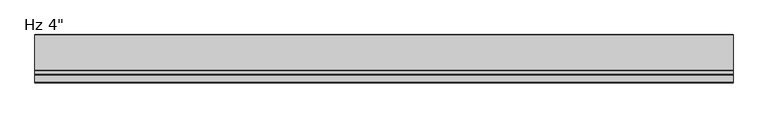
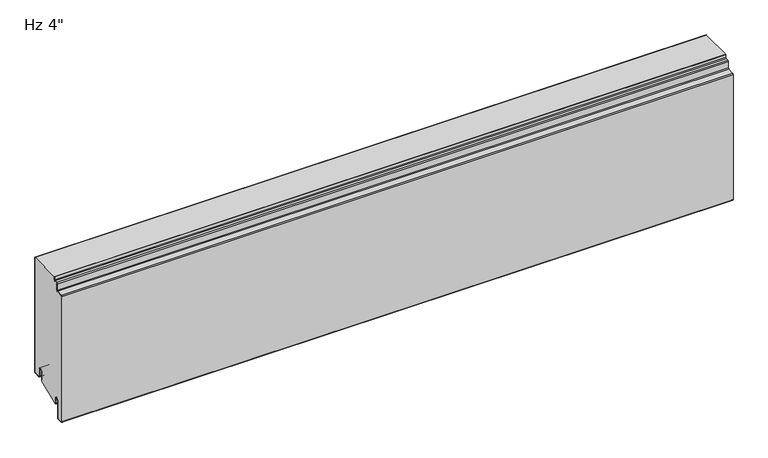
"""IFC4 building model written with IfcOpenShell, lengths in millimetres: plate geometry."""

from ifc_helpers import new_model, si_unit, point, frame, frame_2d, origin, place, context, project, spatial, polyline, circle_curve, trimmed, segment, composite_curve, outline, extrude, source, transform, mapped, element, save


def plate_0d08f7c9(model_context):
    return source(origin(), model_context, "Body", "SweptSolid", [
        extrude(outline(composite_curve([segment(trimmed(circle_curve(frame_2d((-21.43125, 19.05)), 4.96875), [point((-16.4625, 19.05))], [point((-26.4, 19.05))], True, "CARTESIAN"), True, "CONTINUOUS"), segment(polyline([(-26.4, 19.05), (-26.4, -3.1323422), (-74.6157227, -23.01875), (-76.2, -23.01875), (-76.2, -13.5080174), (-76.99375, -13.5080174), (-76.7875, -11.9205174)]), True, "CONTINUOUS"), segment(trimmed(circle_curve(frame_2d((-81.75625, -11.9205174)), 4.96875), [point((-76.7875, -11.9205174))], [point((-86.725, -11.9205174))], True, "CARTESIAN"), True, "CONTINUOUS"), segment(polyline([(-86.725, -11.9205174), (-86.725, -50.1038221)]), True, "CONTINUOUS"), segment(trimmed(circle_curve(frame_2d((-88.10625, -50.1038221)), 1.38125), [point((-86.725, -50.1038221))], [point((-88.033961, -51.4831791))], False, "CARTESIAN"), True, "CONTINUOUS"), segment(polyline([(-88.033961, -51.4831791), (-99.146461, -52.0655606)]), True, "CONTINUOUS"), segment(trimmed(circle_curve(frame_2d((-99.21875, -50.6862035)), 1.38125), [point((-99.146461, -52.0655606))], [point((-100.6, -50.6862035))], False, "CARTESIAN"), True, "CONTINUOUS"), segment(polyline([(-100.6, -50.6862035), (-100.6, 236.6447607)]), True, "CONTINUOUS"), segment(trimmed(circle_curve(frame_2d((-99.21875, 236.6447607)), 1.38125), [point((-100.6, 236.6447607))], [point((-99.291039, 238.0241177))], False, "CARTESIAN"), True, "CONTINUOUS"), segment(polyline([(-99.291039, 238.0241177), (-85.5895807, 238.7421807)]), True, "CONTINUOUS"), segment(trimmed(circle_curve(frame_2d((-85.725, 241.3261347)), 2.5875), [point((-85.5895807, 238.7421807))], [point((-83.1375, 241.3261347))], True, "CARTESIAN"), True, "CONTINUOUS"), segment(polyline([(-83.1375, 241.3261347), (-83.1375, 255.4824411)]), True, "CONTINUOUS"), segment(trimmed(circle_curve(frame_2d((-81.75625, 255.4824411)), 1.38125), [point((-83.1375, 255.4824411))], [point((-81.828539, 256.8617981))], False, "CARTESIAN"), True, "CONTINUOUS"), segment(polyline([(-81.828539, 256.8617981), (-76.0645807, 257.1638744)]), True, "CONTINUOUS"), segment(trimmed(circle_curve(frame_2d((-76.2, 259.7478283)), 2.5875), [point((-76.0645807, 257.1638744))], [point((-73.6125, 259.7478283))], True, "CARTESIAN"), True, "CONTINUOUS"), segment(polyline([(-73.6125, 259.7478283), (-73.6125, 266.4), (-1.0, 266.4), (-1.0, 3.175)]), True, "CONTINUOUS"), segment(trimmed(circle_curve(frame_2d((-2.38125, 3.175)), 1.38125), [point((-1.0, 3.175))], [point((-2.38125, 1.79375))], False, "CARTESIAN"), True, "CONTINUOUS"), segment(polyline([(-2.38125, 1.79375), (-15.08125, 1.79375)]), True, "CONTINUOUS"), segment(trimmed(circle_curve(frame_2d((-15.08125, 3.175)), 1.38125), [point((-15.08125, 1.79375))], [point((-16.4625, 3.175))], False, "CARTESIAN"), True, "CONTINUOUS"), segment(polyline([(-16.4625, 3.175), (-16.4625, 19.05)]), True, "CONTINUOUS")], self_intersect=False)), frame((-730.0, 0.0, 0.0), z_axis=(1.0, 0.0, 0.0), x_axis=(0.0, 1.0, 0.0)), (0.0, 0.0, 1.0), 1460.0),
        extrude(outline(composite_curve([segment(polyline([(-25.4, 0.79375), (-26.4, 0.79375), (-26.4, 19.05)]), True, "CONTINUOUS"), segment(trimmed(circle_curve(frame_2d((-21.43125, 19.05)), 4.96875), [point((-26.4, 19.05))], [point((-16.4625, 19.05))], False, "CARTESIAN"), True, "CONTINUOUS"), segment(polyline([(-16.4625, 19.05), (-16.4625, 3.175)]), True, "CONTINUOUS"), segment(trimmed(circle_curve(frame_2d((-15.08125, 3.175)), 1.38125), [point((-16.4625, 3.175))], [point((-15.08125, 1.79375))], True, "CARTESIAN"), True, "CONTINUOUS"), segment(polyline([(-15.08125, 1.79375), (-2.38125, 1.79375)]), True, "CONTINUOUS"), segment(trimmed(circle_curve(frame_2d((-2.38125, 3.175)), 1.38125), [point((-2.38125, 1.79375))], [point((-1.0, 3.175))], True, "CARTESIAN"), True, "CONTINUOUS"), segment(polyline([(-1.0, 3.175), (-1.0, 266.4), (0.0, 266.4), (0.0, 3.175)]), True, "CONTINUOUS"), segment(trimmed(circle_curve(frame_2d((-2.38125, 3.175)), 2.38125), [point((0.0, 3.175))], [point((-2.38125, 0.79375))], False, "CARTESIAN"), True, "CONTINUOUS"), segment(polyline([(-2.38125, 0.79375), (-15.08125, 0.79375)]), True, "CONTINUOUS"), segment(trimmed(circle_curve(frame_2d((-15.08125, 3.175)), 2.38125), [point((-15.08125, 0.79375))], [point((-17.4625, 3.175))], False, "CARTESIAN"), True, "CONTINUOUS"), segment(polyline([(-17.4625, 3.175), (-17.4625, 19.05)]), True, "CONTINUOUS"), segment(trimmed(circle_curve(frame_2d((-21.43125, 19.05)), 3.96875), [point((-17.4625, 19.05))], [point((-25.4, 19.05))], True, "CARTESIAN"), True, "CONTINUOUS"), segment(polyline([(-25.4, 19.05), (-25.4, 0.79375)]), True, "CONTINUOUS")], self_intersect=False)), frame((-730.0, 0.0, 0.0), z_axis=(1.0, 0.0, 0.0), x_axis=(0.0, 1.0, 0.0)), (0.0, 0.0, 1.0), 1460.0),
        extrude(outline(composite_curve([segment(trimmed(circle_curve(frame_2d((-76.99375, -23.2314549)), 0.79375), [point((-76.2, -23.2314549))], [point((-77.7875, -23.2314549))], False, "CARTESIAN"), True, "CONTINUOUS"), segment(polyline([(-77.7875, -23.2314549), (-77.7875, -11.9205174)]), True, "CONTINUOUS"), segment(trimmed(circle_curve(frame_2d((-81.75625, -11.9205174)), 3.96875), [point((-77.7875, -11.9205174))], [point((-85.725, -11.9205174))], True, "CARTESIAN"), True, "CONTINUOUS"), segment(polyline([(-85.725, -11.9205174), (-85.725, -50.1038221)]), True, "CONTINUOUS"), segment(trimmed(circle_curve(frame_2d((-88.10625, -50.1038221)), 2.38125), [point((-85.725, -50.1038221))], [point((-87.981625, -52.4818086))], False, "CARTESIAN"), True, "CONTINUOUS"), segment(polyline([(-87.981625, -52.4818086), (-99.094125, -53.0641901)]), True, "CONTINUOUS"), segment(trimmed(circle_curve(frame_2d((-99.21875, -50.6862035)), 2.38125), [point((-99.094125, -53.0641901))], [point((-101.6, -50.6862035))], False, "CARTESIAN"), True, "CONTINUOUS"), segment(polyline([(-101.6, -50.6862035), (-101.6, 236.6447607)]), True, "CONTINUOUS"), segment(trimmed(circle_curve(frame_2d((-99.21875, 236.6447607)), 2.38125), [point((-101.6, 236.6447607))], [point((-99.343375, 239.0227473))], False, "CARTESIAN"), True, "CONTINUOUS"), segment(polyline([(-99.343375, 239.0227473), (-85.6419167, 239.7408103)]), True, "CONTINUOUS"), segment(trimmed(circle_curve(frame_2d((-85.725, 241.3261347)), 1.5875), [point((-85.6419167, 239.7408103))], [point((-84.1375, 241.3261347))], True, "CARTESIAN"), True, "CONTINUOUS"), segment(polyline([(-84.1375, 241.3261347), (-84.1375, 255.4824411)]), True, "CONTINUOUS"), segment(trimmed(circle_curve(frame_2d((-81.75625, 255.4824411)), 2.38125), [point((-84.1375, 255.4824411))], [point((-81.880875, 257.8604276))], False, "CARTESIAN"), True, "CONTINUOUS"), segment(polyline([(-81.880875, 257.8604276), (-76.1169167, 258.1625039)]), True, "CONTINUOUS"), segment(trimmed(circle_curve(frame_2d((-76.2, 259.7478283)), 1.5875), [point((-76.1169167, 258.1625039))], [point((-74.6125, 259.7478283))], True, "CARTESIAN"), True, "CONTINUOUS"), segment(polyline([(-74.6125, 259.7478283), (-74.6125, 266.4), (-73.6125, 266.4), (-73.6125, 259.7478283)]), True, "CONTINUOUS"), segment(trimmed(circle_curve(frame_2d((-76.2, 259.7478283)), 2.5875), [point((-73.6125, 259.7478283))], [point((-76.0645807, 257.1638744))], False, "CARTESIAN"), True, "CONTINUOUS"), segment(polyline([(-76.0645807, 257.1638744), (-81.828539, 256.8617981)]), True, "CONTINUOUS"), segment(trimmed(circle_curve(frame_2d((-81.75625, 255.4824411)), 1.38125), [point((-81.828539, 256.8617981))], [point((-83.1375, 255.4824411))], True, "CARTESIAN"), True, "CONTINUOUS"), segment(polyline([(-83.1375, 255.4824411), (-83.1375, 241.3261347)]), True, "CONTINUOUS"), segment(trimmed(circle_curve(frame_2d((-85.725, 241.3261347)), 2.5875), [point((-83.1375, 241.3261347))], [point((-85.5895807, 238.7421807))], False, "CARTESIAN"), True, "CONTINUOUS"), segment(polyline([(-85.5895807, 238.7421807), (-99.291039, 238.0241177)]), True, "CONTINUOUS"), segment(trimmed(circle_curve(frame_2d((-99.21875, 236.6447607)), 1.38125), [point((-99.291039, 238.0241177))], [point((-100.6, 236.6447607))], True, "CARTESIAN"), True, "CONTINUOUS"), segment(polyline([(-100.6, 236.6447607), (-100.6, -50.6862035)]), True, "CONTINUOUS"), segment(trimmed(circle_curve(frame_2d((-99.21875, -50.6862035)), 1.38125), [point((-100.6, -50.6862035))], [point((-99.146461, -52.0655606))], True, "CARTESIAN"), True, "CONTINUOUS"), segment(polyline([(-99.146461, -52.0655606), (-88.033961, -51.4831791)]), True, "CONTINUOUS"), segment(trimmed(circle_curve(frame_2d((-88.10625, -50.1038221)), 1.38125), [point((-88.033961, -51.4831791))], [point((-86.725, -50.1038221))], True, "CARTESIAN"), True, "CONTINUOUS"), segment(polyline([(-86.725, -50.1038221), (-86.725, -11.9205174)]), True, "CONTINUOUS"), segment(trimmed(circle_curve(frame_2d((-81.75625, -11.9205174)), 4.96875), [point((-86.725, -11.9205174))], [point((-76.7875, -11.9205174))], False, "CARTESIAN"), True, "CONTINUOUS"), segment(polyline([(-76.7875, -11.9205174), (-76.99375, -13.5080174), (-76.2, -13.5080174), (-76.2, -23.2314549)]), True, "CONTINUOUS")], self_intersect=False)), frame((-730.0, 0.0, 0.0), z_axis=(1.0, 0.0, 0.0), x_axis=(0.0, 1.0, 0.0)), (0.0, 0.0, 1.0), 1460.0),
    ])


if __name__ == "__main__":
    model = new_model("IFC4")
    model_context = context("Model", 3, world=origin())
    ifc_project = project(units=[si_unit("LENGTHUNIT", "METRE", prefix="MILLI")], contexts=[model_context])
    site = spatial("IfcSite", under=ifc_project)
    building = spatial("IfcBuilding", under=site)
    placement = place(None, origin())
    plate_shape = plate_0d08f7c9(model_context)
    element("IfcPlate", 1, ObjectType="KIP-12-DWHR-R19-CP-Hz-F : Hz 4\"", at=placement, inside=building, context=model_context, shape_type="MappedRepresentation", body=[
        mapped(plate_shape, transform((0.0, 0.0, 0.0), x_axis=(1.0, 0.0, 0.0), y_axis=(0.0, 1.0, 0.0), z_axis=(0.0, 0.0, 1.0))),
    ])
    save(model, "model.ifc")
